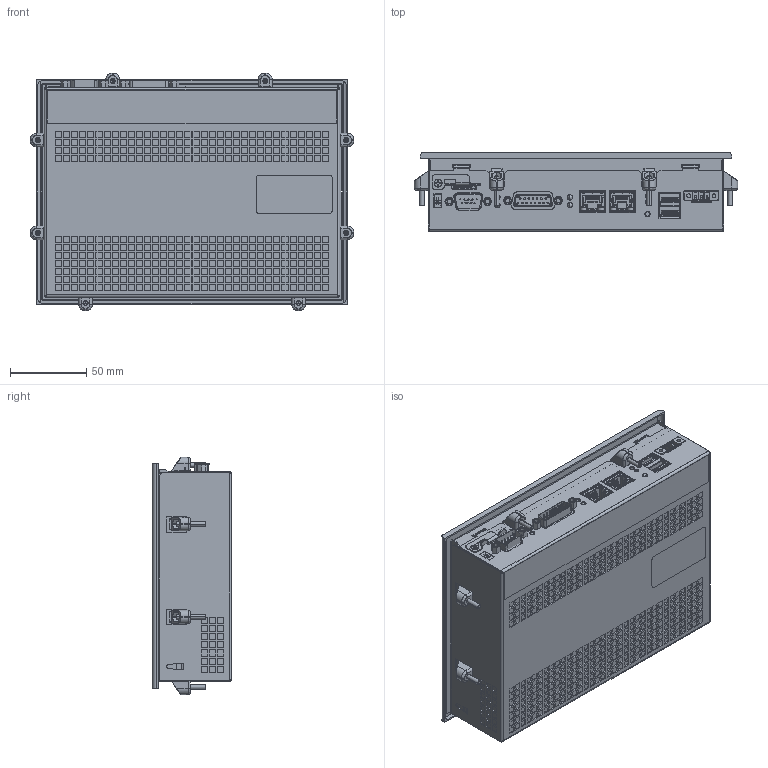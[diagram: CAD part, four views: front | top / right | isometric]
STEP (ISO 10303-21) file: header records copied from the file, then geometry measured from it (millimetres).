
FILE_DESCRIPTION (( 'STEP AP214' ), '1' );
FILE_NAME ('C6S14_70W_B_CAP.STEP', '2019-07-29T13:51:48', ( '' ), ( '' ), 'SwSTEP 2.0', 'SolidWorks 2018', '' );
FILE_SCHEMA (( 'AUTOMOTIVE_DESIGN' ));
Length unit declared in the file: millimetre
Products named in the file (3): C6S14_70W_B_CAP_; DB15_Male_pin; C6S14_70W_B_CAP
Assembly tree (2 placements, depth 2):
  C6S14_70W_B_CAP
    C6S14_70W_B_CAP_
    DB15_Male_pin
Bounding box: 212 x 52.3 x 155.6 mm (x, y, z)
Surface area: 281473.6 mm2
Topology: 1 solids, 4275 shells, 4571 faces, 24839 edges, 24533 vertices
Faces by surface type: plane 3541, cylinder 695, cone 169, bspline 166
Entity records: 286652 total; most frequent: CARTESIAN_POINT 105689, DIRECTION 30604, ORIENTED_EDGE 25445, EDGE_CURVE 24805, VERTEX_POINT 24533, LINE 18426, VECTOR 18426, AXIS2_PLACEMENT_3D 6089
